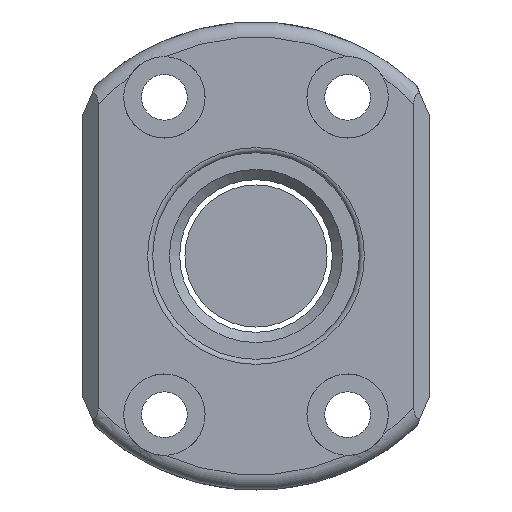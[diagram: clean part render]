
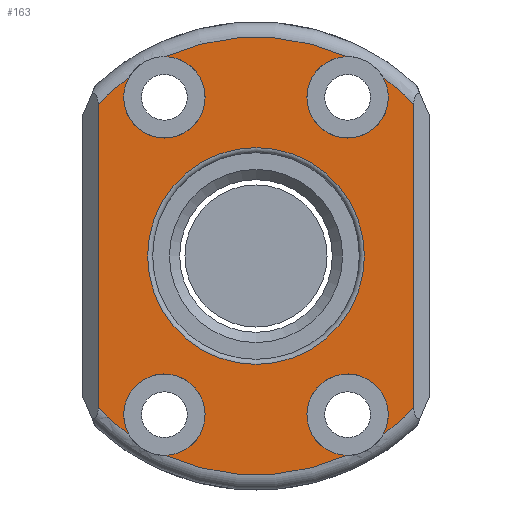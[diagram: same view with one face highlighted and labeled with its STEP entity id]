
A CAD part, front view. The second image highlights one B-rep face of the part: STEP entity #163.
In plain terms, the highlighted planar face has unit normal (0, -1, 0).
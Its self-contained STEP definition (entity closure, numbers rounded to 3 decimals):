
#52=LINE('',#1027,#76);
#53=LINE('',#1039,#77);
#76=VECTOR('',#828,1.);
#77=VECTOR('',#839,1.);
#123=PLANE('',#742);
#163=ADVANCED_FACE('',(#222,#223),#123,.T.);
#222=FACE_BOUND('',#282,.T.);
#223=FACE_BOUND('',#283,.T.);
#282=EDGE_LOOP('',(#358,#359,#360,#361,#362,#363,#364,#365,#366,#367,#368,
#369));
#283=EDGE_LOOP('',(#370));
#358=ORIENTED_EDGE('',*,*,#597,.T.);
#359=ORIENTED_EDGE('',*,*,#598,.T.);
#360=ORIENTED_EDGE('',*,*,#599,.T.);
#361=ORIENTED_EDGE('',*,*,#600,.F.);
#362=ORIENTED_EDGE('',*,*,#601,.T.);
#363=ORIENTED_EDGE('',*,*,#602,.F.);
#364=ORIENTED_EDGE('',*,*,#603,.T.);
#365=ORIENTED_EDGE('',*,*,#604,.T.);
#366=ORIENTED_EDGE('',*,*,#605,.T.);
#367=ORIENTED_EDGE('',*,*,#606,.F.);
#368=ORIENTED_EDGE('',*,*,#607,.T.);
#369=ORIENTED_EDGE('',*,*,#608,.T.);
#370=ORIENTED_EDGE('',*,*,#609,.T.);
#530=VERTEX_POINT('',#1025);
#531=VERTEX_POINT('',#1026);
#532=VERTEX_POINT('',#1028);
#533=VERTEX_POINT('',#1030);
#534=VERTEX_POINT('',#1032);
#535=VERTEX_POINT('',#1034);
#536=VERTEX_POINT('',#1036);
#537=VERTEX_POINT('',#1038);
#538=VERTEX_POINT('',#1040);
#539=VERTEX_POINT('',#1042);
#540=VERTEX_POINT('',#1044);
#541=VERTEX_POINT('',#1046);
#542=VERTEX_POINT('',#1049);
#597=EDGE_CURVE('',#530,#531,#684,.T.);
#598=EDGE_CURVE('',#531,#532,#52,.T.);
#599=EDGE_CURVE('',#532,#533,#685,.T.);
#600=EDGE_CURVE('',#534,#533,#686,.T.);
#601=EDGE_CURVE('',#534,#535,#687,.T.);
#602=EDGE_CURVE('',#536,#535,#688,.T.);
#603=EDGE_CURVE('',#536,#537,#689,.T.);
#604=EDGE_CURVE('',#537,#538,#53,.T.);
#605=EDGE_CURVE('',#538,#539,#690,.T.);
#606=EDGE_CURVE('',#540,#539,#691,.T.);
#607=EDGE_CURVE('',#540,#541,#692,.T.);
#608=EDGE_CURVE('',#541,#530,#693,.T.);
#609=EDGE_CURVE('',#542,#542,#694,.T.);
#684=CIRCLE('',#731,21.5);
#685=CIRCLE('',#732,21.5);
#686=CIRCLE('',#733,4.);
#687=CIRCLE('',#734,21.5);
#688=CIRCLE('',#735,4.);
#689=CIRCLE('',#736,21.5);
#690=CIRCLE('',#737,21.5);
#691=CIRCLE('',#738,4.);
#692=CIRCLE('',#739,21.5);
#693=CIRCLE('',#740,4.);
#694=CIRCLE('',#741,10.65);
#731=AXIS2_PLACEMENT_3D('',#1024,#826,#827);
#732=AXIS2_PLACEMENT_3D('',#1029,#829,#830);
#733=AXIS2_PLACEMENT_3D('',#1031,#831,#832);
#734=AXIS2_PLACEMENT_3D('',#1033,#833,#834);
#735=AXIS2_PLACEMENT_3D('',#1035,#835,#836);
#736=AXIS2_PLACEMENT_3D('',#1037,#837,#838);
#737=AXIS2_PLACEMENT_3D('',#1041,#840,#841);
#738=AXIS2_PLACEMENT_3D('',#1043,#842,#843);
#739=AXIS2_PLACEMENT_3D('',#1045,#844,#845);
#740=AXIS2_PLACEMENT_3D('',#1047,#846,#847);
#741=AXIS2_PLACEMENT_3D('',#1048,#848,#849);
#742=AXIS2_PLACEMENT_3D('',#1050,#850,#851);
#826=DIRECTION('',(0.,-1.,0.));
#827=DIRECTION('',(0.,0.,-1.));
#828=DIRECTION('',(0.,0.,1.));
#829=DIRECTION('',(0.,-1.,0.));
#830=DIRECTION('',(0.,0.,-1.));
#831=DIRECTION('',(0.,-1.,0.));
#832=DIRECTION('',(1.,0.,0.));
#833=DIRECTION('',(0.,-1.,0.));
#834=DIRECTION('',(0.,0.,-1.));
#835=DIRECTION('',(0.,-1.,0.));
#836=DIRECTION('',(-1.,0.,0.));
#837=DIRECTION('',(0.,-1.,0.));
#838=DIRECTION('',(0.,0.,-1.));
#839=DIRECTION('',(0.,0.,-1.));
#840=DIRECTION('',(0.,-1.,0.));
#841=DIRECTION('',(0.,0.,-1.));
#842=DIRECTION('',(0.,-1.,0.));
#843=DIRECTION('',(-1.,0.,0.));
#844=DIRECTION('',(0.,-1.,0.));
#845=DIRECTION('',(0.,0.,-1.));
#846=DIRECTION('',(0.,1.,0.));
#847=DIRECTION('',(1.,0.,0.));
#848=DIRECTION('',(0.,1.,0.));
#849=DIRECTION('',(0.,0.,-1.));
#850=DIRECTION('',(0.,-1.,0.));
#851=DIRECTION('',(0.,0.,-1.));
#1024=CARTESIAN_POINT('',(0.,0.,0.));
#1025=CARTESIAN_POINT('',(12.529,0.,-17.472));
#1026=CARTESIAN_POINT('',(15.5,0.,-14.9));
#1027=CARTESIAN_POINT('',(15.5,0.,13.162));
#1028=CARTESIAN_POINT('',(15.5,0.,14.9));
#1029=CARTESIAN_POINT('',(0.,0.,0.));
#1030=CARTESIAN_POINT('',(12.529,0.,17.472));
#1031=CARTESIAN_POINT('',(9.,0.,15.588));
#1032=CARTESIAN_POINT('',(8.867,0.,19.586));
#1033=CARTESIAN_POINT('',(0.,0.,0.));
#1034=CARTESIAN_POINT('',(-8.867,0.,19.586));
#1035=CARTESIAN_POINT('',(-9.,0.,15.588));
#1036=CARTESIAN_POINT('',(-12.529,0.,17.472));
#1037=CARTESIAN_POINT('',(0.,0.,0.));
#1038=CARTESIAN_POINT('',(-15.5,0.,14.9));
#1039=CARTESIAN_POINT('',(-15.5,0.,0.));
#1040=CARTESIAN_POINT('',(-15.5,0.,-14.9));
#1041=CARTESIAN_POINT('',(0.,0.,0.));
#1042=CARTESIAN_POINT('',(-12.529,0.,-17.472));
#1043=CARTESIAN_POINT('',(-9.,0.,-15.588));
#1044=CARTESIAN_POINT('',(-8.867,0.,-19.586));
#1045=CARTESIAN_POINT('',(0.,0.,0.));
#1046=CARTESIAN_POINT('',(8.867,0.,-19.586));
#1047=CARTESIAN_POINT('',(9.,0.,-15.588));
#1048=CARTESIAN_POINT('',(0.,0.,0.));
#1049=CARTESIAN_POINT('',(0.,0.,-10.65));
#1050=CARTESIAN_POINT('',(0.,0.,0.));
